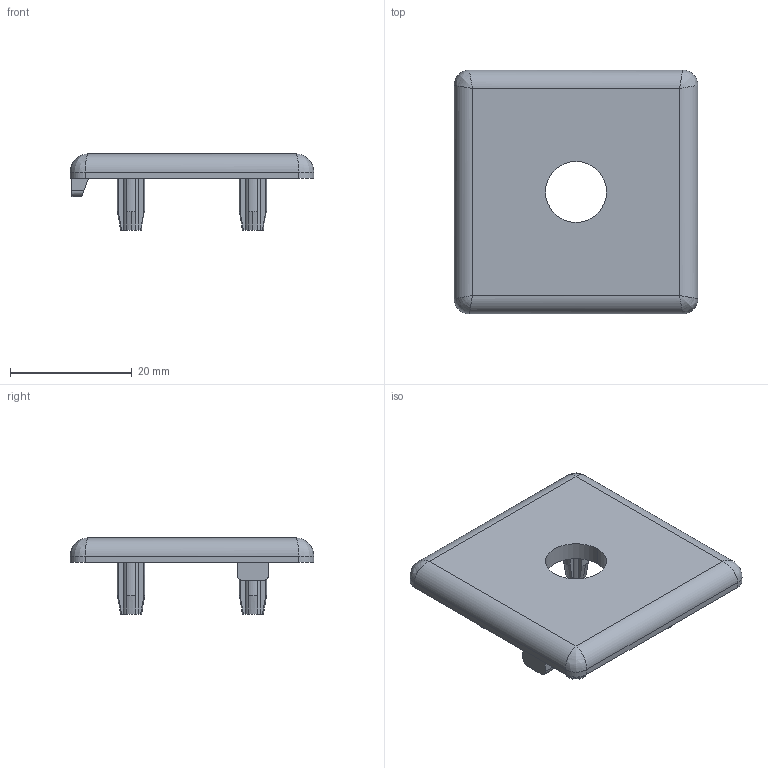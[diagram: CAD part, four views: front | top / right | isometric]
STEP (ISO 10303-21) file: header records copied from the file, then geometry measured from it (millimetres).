
FILE_DESCRIPTION (( 'STEP AP203' ), '1' );
FILE_NAME ('0108FAK4040L.STEP', '2024-03-12T10:13:15', ( 'Windows-Benutzer' ), ( '' ), 'SwSTEP 2.0', 'SolidWorks 2023', '' );
FILE_SCHEMA (( 'CONFIG_CONTROL_DESIGN' ));
Length unit declared in the file: millimetre
Products named in the file (1): 0108FAK4040L
Bounding box: 40 x 40 x 12.5 mm (x, y, z)
Volume: 5152.9 mm3; surface area: 4269 mm2
Topology: 1 solids, 1 shells, 128 faces, 349 edges, 224 vertices
Faces by surface type: cylinder 52, plane 52, cone 20, bspline 4
Entity records: 4416 total; most frequent: CARTESIAN_POINT 1132, ORIENTED_EDGE 690, DIRECTION 659, EDGE_CURVE 345, AXIS2_PLACEMENT_3D 235, VERTEX_POINT 224, LINE 189, VECTOR 189
